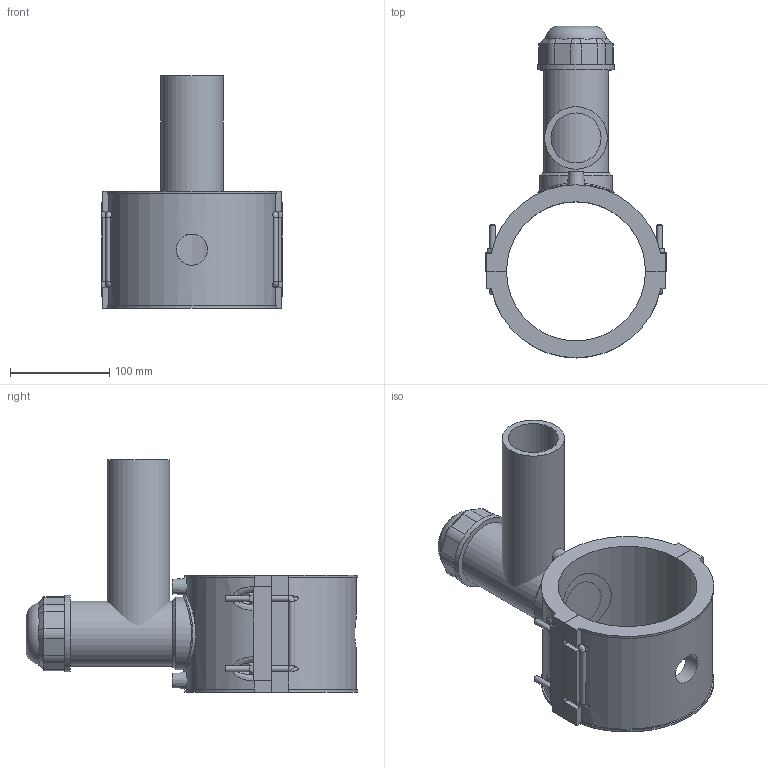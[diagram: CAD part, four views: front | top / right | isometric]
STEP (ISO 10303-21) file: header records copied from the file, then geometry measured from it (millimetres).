
FILE_DESCRIPTION(/* description */ (''),/* implementation_level */ '2;1');
FILE_NAME(/* name */ 'C:\Dropbox\KIMPROJECTS-Inventor 2019\99-16-3568-Processing\ElectroFusion Fittings\4963P4\stp\4963P4140063.stp',/* time_stamp */ '2022-03-17T11:29:45+02:00',/* author */ ('KIM'),/* organization */ (''),/* preprocessor_version */ 'ST-DEVELOPER v17.2',/* originating_system */ 'Autodesk Inventor 2019',/* authorisation */ '');
FILE_SCHEMA (('AUTOMOTIVE_DESIGN { 1 0 10303 214 3 1 1 }'));
Length unit declared in the file: millimetre
Products named in the file (1): 4963P4140063
Bounding box: 182 x 334.11 x 234 mm (x, y, z)
Volume: 1481640.2 mm3; surface area: 290060.2 mm2
Topology: 3 solids, 3 shells, 201 faces, 525 edges, 337 vertices
Faces by surface type: plane 119, cylinder 53, cone 15, bspline 13, torus 1
Full cylindrical faces by diameter (mm): 4 x2, 6 x8, 10 x2, 31.36 x1, 50.4 x1, 53.9 x1, 63 x1, 65.45 x1, 73.15 x1, 77 x2
Entity records: 7440 total; most frequent: CARTESIAN_POINT 2537, ORIENTED_EDGE 1034, DIRECTION 966, EDGE_CURVE 517, VERTEX_POINT 337, AXIS2_PLACEMENT_3D 331, LINE 304, VECTOR 304
